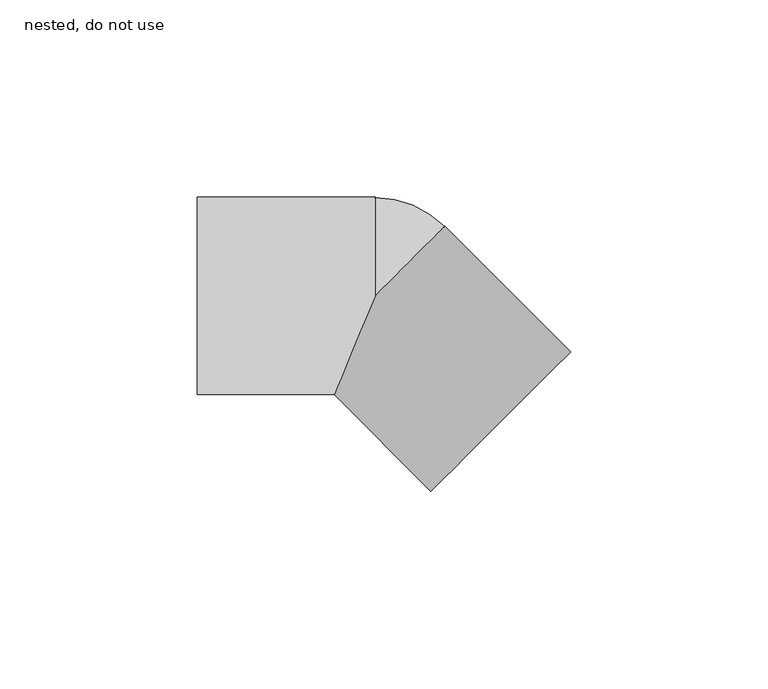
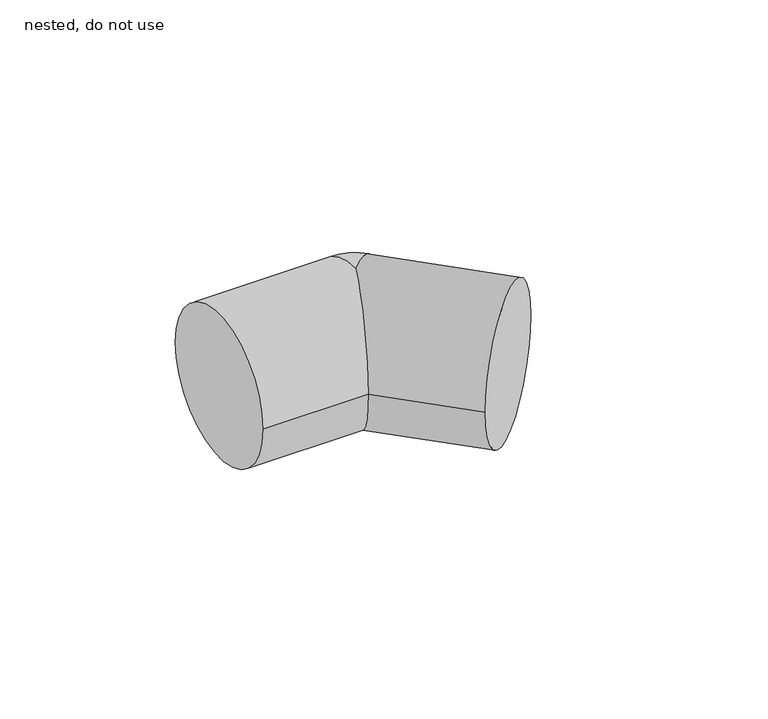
"""IFC4 building model written with IfcOpenShell, lengths in millimetres: pipe fitting geometry, NLRS_52_PIF_UN_HDPE elbow for branch assembly -SH_Akatherm : nested, do not use."""

from ifc_helpers import new_model, si_unit, point, frame, origin, place, context, project, spatial, circle_curve, ellipse_curve, trimmed, source, transform, mapped, element, save
from ifc_brep_helpers import plane_surface, cylinder_surface, revolved_surface, advanced_brep


def nested_do_not_use_767789ff(model_context):
    return source(origin(), model_context, "Body", "AdvancedBrep", [
        advanced_brep(
        [(-45.0, 25.0, 0.0), (-45.0, -25.0, 0.0), (0.0, 25.0, 0.0), (0.0, 0.0, -25.0), (-10.3553391, -25.0, 0.0), (0.0, 0.0, 25.0), (49.4974747, -14.1421356, 0.0), (14.1421356, -49.4974747, 0.0), (17.6776695, 17.6776695, 0.0)],
        [
            (0, 1, circle_curve(frame((-45.0, 0.0, 0.0), z_axis=(-1.0, 0.0, 0.0), x_axis=(0.0, -1.0, 0.0)), 25.0)),
            (1, 0, circle_curve(frame((-45.0, 0.0, 0.0), z_axis=(-1.0, 0.0, 0.0), x_axis=(0.0, -1.0, 0.0)), 25.0)),
            (0, 2),
            (2, 3, circle_curve(frame((0.0, 0.0, 0.0), z_axis=(-1.0, 0.0, 0.0), x_axis=(0.0, -1.0, 0.0)), 25.0)),
            (3, 4, ellipse_curve(frame((0.0, 0.0, 0.0), z_axis=(-0.9238795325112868, 0.38268343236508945, 0.0), x_axis=(0.3826834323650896, 0.923879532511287, 0.0)), 27.059805, 25.0)),
            (4, 1),
            (4, 5, ellipse_curve(frame((0.0, 0.0, 0.0), z_axis=(-0.9238795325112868, 0.38268343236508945, 0.0), x_axis=(0.3826834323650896, 0.923879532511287, 0.0)), 27.059805, 25.0)),
            (5, 2, circle_curve(frame((0.0, 0.0, 0.0), z_axis=(-1.0, 0.0, 0.0), x_axis=(0.0, -1.0, 0.0)), 25.0)),
            (6, 7, circle_curve(frame((31.8198052, -31.8198052, 0.0), z_axis=(0.707106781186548, -0.707106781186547, 0.0), x_axis=(-0.707106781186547, -0.707106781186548, 0.0)), 25.0)),
            (7, 6, circle_curve(frame((31.8198052, -31.8198052, 0.0), z_axis=(0.707106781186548, -0.707106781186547, 0.0), x_axis=(-0.707106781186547, -0.707106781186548, 0.0)), 25.0)),
            (6, 8),
            (8, 5, circle_curve(frame((0.0, 0.0, 0.0), z_axis=(0.707106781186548, -0.707106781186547, 0.0), x_axis=(-0.707106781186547, -0.707106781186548, 0.0)), 25.0)),
            (4, 7),
            (3, 8, circle_curve(frame((0.0, 0.0, 0.0), z_axis=(0.707106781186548, -0.707106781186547, 0.0), x_axis=(-0.707106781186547, -0.707106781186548, 0.0)), 25.0)),
        ],
        [
            plane_surface(frame((-45.0, -25.0, 0.0), z_axis=(-1.0, 0.0, 0.0), x_axis=(0.0, 0.0, -1.0))),
            cylinder_surface(frame((-45.0, 0.0, 0.0), z_axis=(1.0, 0.0, 0.0), x_axis=(0.0, -1.0, 0.0)), 25.0),
            plane_surface(frame((31.8198052, -31.8198052, 0.0), z_axis=(0.707106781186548, -0.707106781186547, 0.0), x_axis=(0.0, 0.0, 1.0))),
            cylinder_surface(frame((0.0, 0.0, 0.0), z_axis=(-0.707106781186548, 0.707106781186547, 0.0), x_axis=(-0.707106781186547, -0.707106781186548, 0.0)), 25.0),
            revolved_surface(trimmed(ellipse_curve(frame((0.0, 0.0, 0.0), z_axis=(1.0, 0.0, 0.0), x_axis=(0.0, -1.0, 0.0)), 25.0, 25.0), [point((0.0, 0.0, -25.0))], [point((0.0, 0.0, 25.0))], True, "CARTESIAN"), (0.0, 0.0, 105.0), (0.0, 0.0, 1.0)),
        ],
        [
            (0, [[1, 2]]),
            (1, [[3, 4, 5, 6, -1]]),
            (1, [[-6, 7, 8, -3, -2]]),
            (2, [[9, 10]]),
            (3, [[11, 12, -7, 13, -9]]),
            (3, [[-13, -5, 14, -11, -10]]),
            (4, [[-14, -4, -8, -12]]),
        ],
    ),
    ])


if __name__ == "__main__":
    model = new_model("IFC4")
    model_context = context("Model", 3, world=origin())
    ifc_project = project(units=[si_unit("LENGTHUNIT", "METRE", prefix="MILLI")], contexts=[model_context])
    site = spatial("IfcSite", under=ifc_project)
    building = spatial("IfcBuilding", under=site)
    placement = place(None, origin())
    nested_do_not_use_shape = nested_do_not_use_767789ff(model_context)
    element("IfcPipeFitting", 1, ObjectType="NLRS_52_PIF_UN_HDPE elbow for branch assembly -SH_Akatherm : nested, do not use", at=placement, inside=building, context=model_context, shape_type="MappedRepresentation", body=[
        mapped(nested_do_not_use_shape, transform((0.0, 0.0, 0.0), x_axis=(1.0, 0.0, 0.0), y_axis=(0.0, 1.0, 0.0), z_axis=(0.0, 0.0, 1.0))),
    ])
    save(model, "model.ifc")
